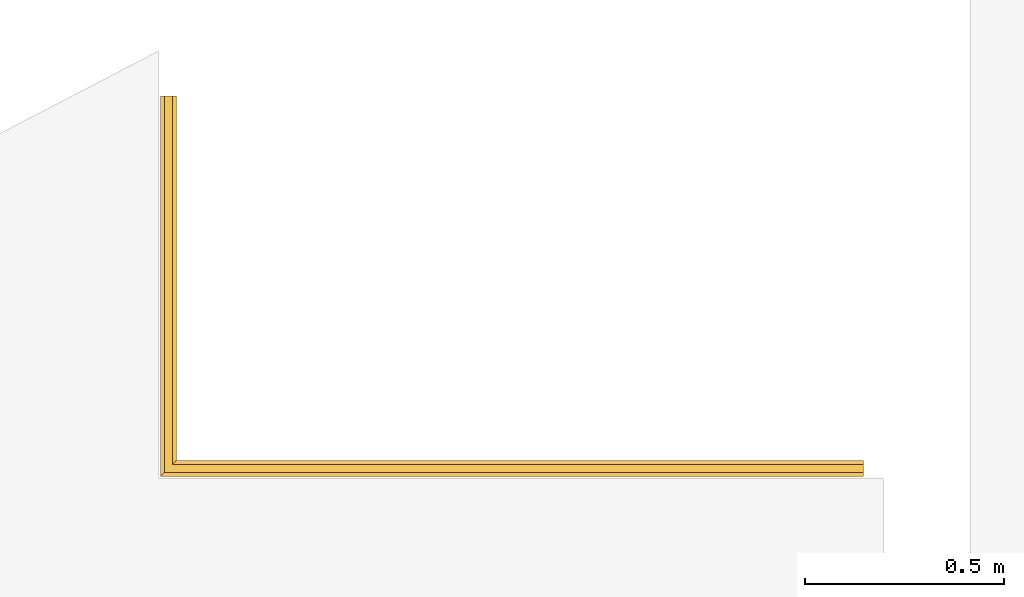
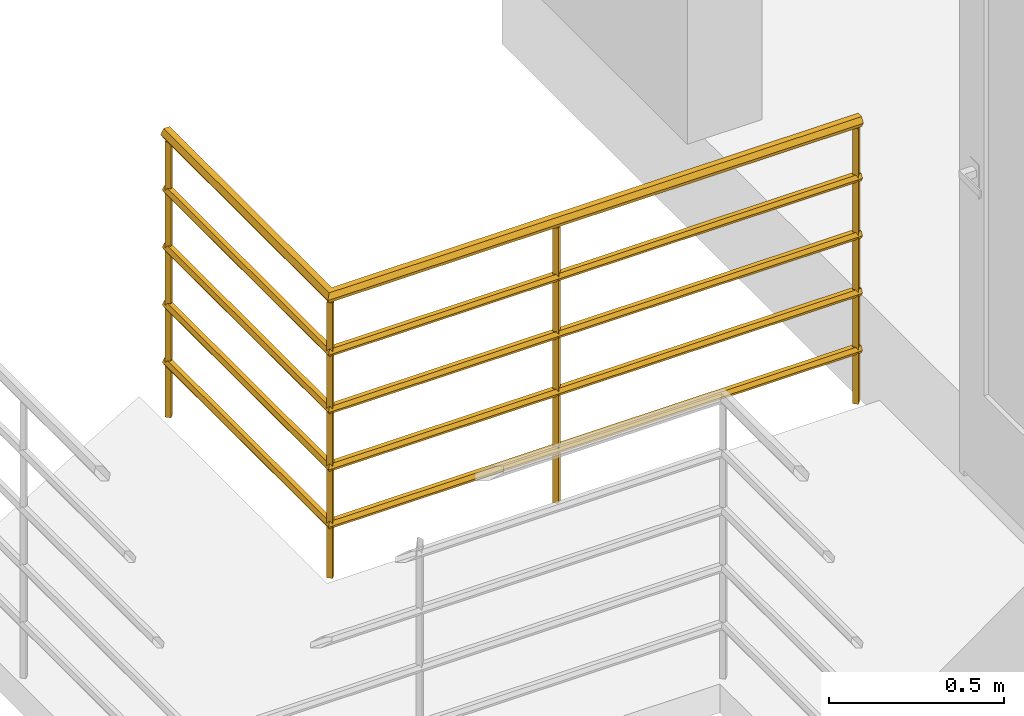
# One storey, part 9 of 15: 1 railing.
"""IFC2X3 building model written with IfcOpenShell, lengths in millimetres."""

from ifc_helpers import new_model, entity, si_unit, converted_unit, derived_unit, direction, frame, origin, place, context, subcontext, project, spatial, faceted_brep, element, save


model = new_model("IFC2X3")

# Units and contexts
model_context = context("Model", 3, precision=0.01, world=origin(), true_north=direction((6.12303176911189e-17, 1.0)))
body_context = subcontext(model_context, "Body", "Model", "MODEL_VIEW")
ifc_project = project(units=[si_unit("LENGTHUNIT", "METRE", prefix="MILLI"), si_unit("AREAUNIT", "SQUARE_METRE"), si_unit("VOLUMEUNIT", "CUBIC_METRE"), converted_unit("PLANEANGLEUNIT", "DEGREE", entity("IfcRatioMeasure", 0.0174532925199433), si_unit("PLANEANGLEUNIT", "RADIAN"), dimensions=[0, 0, 0, 0, 0, 0, 0]), si_unit("MASSUNIT", "GRAM", prefix="KILO"), derived_unit("MASSDENSITYUNIT", [(si_unit("MASSUNIT", "GRAM", prefix="KILO"), 1), (si_unit("LENGTHUNIT", "METRE"), -3)]), si_unit("TIMEUNIT", "SECOND"), si_unit("FREQUENCYUNIT", "HERTZ"), si_unit("THERMODYNAMICTEMPERATUREUNIT", "DEGREE_CELSIUS"), derived_unit("THERMALTRANSMITTANCEUNIT", [(si_unit("MASSUNIT", "GRAM", prefix="KILO"), 1), (si_unit("THERMODYNAMICTEMPERATUREUNIT", "KELVIN"), -1), (si_unit("TIMEUNIT", "SECOND"), -3)]), derived_unit("VOLUMETRICFLOWRATEUNIT", [(si_unit("LENGTHUNIT", "METRE"), 3), (si_unit("TIMEUNIT", "SECOND"), -1)]), si_unit("ELECTRICCURRENTUNIT", "AMPERE"), si_unit("ELECTRICVOLTAGEUNIT", "VOLT"), si_unit("POWERUNIT", "WATT"), si_unit("FORCEUNIT", "NEWTON", prefix="KILO"), si_unit("ILLUMINANCEUNIT", "LUX"), si_unit("LUMINOUSFLUXUNIT", "LUMEN"), si_unit("LUMINOUSINTENSITYUNIT", "CANDELA"), derived_unit("USERDEFINED", [(si_unit("MASSUNIT", "GRAM", prefix="KILO"), -1), (si_unit("LENGTHUNIT", "METRE"), -2), (si_unit("TIMEUNIT", "SECOND"), 3), (si_unit("LUMINOUSFLUXUNIT", "LUMEN"), 1)]), derived_unit("LINEARVELOCITYUNIT", [(si_unit("LENGTHUNIT", "METRE"), 1), (si_unit("TIMEUNIT", "SECOND"), -1)]), si_unit("PRESSUREUNIT", "PASCAL"), derived_unit("USERDEFINED", [(si_unit("LENGTHUNIT", "METRE"), -2), (si_unit("MASSUNIT", "GRAM", prefix="KILO"), 1), (si_unit("TIMEUNIT", "SECOND"), -2)])], contexts=[model_context])

# Site, building, storey
site_placement = place(None, frame((-151.875543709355, 2715.0, 0.0)))
site = spatial("IfcSite", under=ifc_project, at=site_placement, Name="Surface", CompositionType="ELEMENT")
building_placement = place(site_placement, origin())
building = spatial("IfcBuilding", under=site, at=building_placement, CompositionType="ELEMENT")
storey_placement = place(building_placement, frame((0.0, 0.0, 7670.0)))
storey = spatial("IfcBuildingStorey", under=building, at=storey_placement, Name="uus 3 korrus", CompositionType="ELEMENT", Elevation=7670.00000000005)

# Railing
railing_placement = place(storey_placement, frame((29776.0209959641, 24035.8416847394, 0.0)))
element("IfcRailing", 1, at=railing_placement, inside=storey, Name="Railing:Piire hor_post - 1000mm", ObjectType="Railing:Piire hor_post - 1000mm", PredefinedType="NOTDEFINED", context=body_context, shape_type="Brep", body=[
    faceted_brep([(766.595272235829, 34.0952722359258, 0.0), (754.095272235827, 21.5952722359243, 0.0), (754.095272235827, 21.5952722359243, 960.0), (766.595272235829, 34.0952722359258, 960.0), (766.595272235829, 9.09527223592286, 0.0), (766.595272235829, 9.09527223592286, 960.0), (779.09527223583, 21.5952722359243, 960.0), (779.09527223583, 21.5952722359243, 0.0)], [[[0, 1, 2, 3]], [[2, 1, 4, 5]], [[6, 5, 4, 7]], [[6, 7, 0, 3]], [[3, 2, 5, 6]], [[0, 7, 4, 1]]]),
    faceted_brep([(21.5952722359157, 34.0952722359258, 0.0), (9.09527223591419, 21.5952722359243, 0.0), (9.09527223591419, 21.5952722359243, 960.0), (21.5952722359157, 34.0952722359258, 960.0), (21.5952722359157, 9.09527223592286, 0.0), (21.5952722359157, 9.09527223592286, 960.0), (34.0952722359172, 21.5952722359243, 960.0), (34.0952722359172, 21.5952722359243, 0.0)], [[[0, 1, 2, 3]], [[2, 1, 4, 5]], [[6, 5, 4, 7]], [[6, 7, 0, 3]], [[3, 2, 5, 6]], [[0, 7, 4, 1]]]),
    faceted_brep([(34.0952722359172, 944.095272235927, 0.0), (21.5952722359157, 956.595272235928, 0.0), (21.5952722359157, 956.595272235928, 960.0), (34.0952722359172, 944.095272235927, 960.0), (9.09527223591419, 944.095272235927, 0.0), (9.09527223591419, 944.095272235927, 960.0), (21.5952722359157, 931.595272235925, 960.0), (21.5952722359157, 931.595272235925, 0.0)], [[[0, 1, 2, 3]], [[2, 1, 4, 5]], [[6, 5, 4, 7]], [[6, 7, 0, 3]], [[3, 2, 5, 6]], [[0, 7, 4, 1]]]),
    faceted_brep([(1754.09527223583, 34.0952722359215, 0.0), (1741.59527223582, 21.59527223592, 0.0), (1741.59527223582, 21.59527223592, 960.0), (1754.09527223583, 34.0952722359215, 960.0), (1754.09527223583, 9.09527223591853, 0.0), (1754.09527223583, 9.09527223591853, 960.0), (1766.59527223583, 21.59527223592, 960.0), (1766.59527223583, 21.59527223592, 0.0)], [[[0, 1, 2, 3]], [[2, 1, 4, 5]], [[6, 5, 4, 7]], [[6, 7, 0, 3]], [[3, 2, 5, 6]], [[0, 7, 4, 1]]]),
    faceted_brep([(1766.59527223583, 1.59527223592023, 980.0), (1766.59527223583, 4.09527223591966, 975.669872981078), (1766.59527223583, 6.59527223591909, 971.339745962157), (1766.59527223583, 9.09527223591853, 967.009618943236), (1766.59527223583, 11.595272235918, 962.679491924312), (1766.59527223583, 16.5952722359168, 962.679491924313), (1766.59527223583, 21.59527223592, 962.679491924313), (1766.59527223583, 26.5952722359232, 962.679491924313), (1766.59527223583, 31.5952722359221, 962.679491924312), (1766.59527223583, 34.0952722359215, 967.009618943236), (1766.59527223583, 36.5952722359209, 971.339745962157), (1766.59527223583, 39.2360084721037, 975.913635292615), (1766.59527223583, 41.5952722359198, 980.0), (1766.59527223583, 39.2360084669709, 984.086364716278), (1766.59527223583, 36.8767446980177, 988.172729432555), (1766.59527223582, 34.2360084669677, 992.746618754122), (1766.59527223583, 31.5952722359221, 997.320508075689), (1766.59527223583, 26.5952722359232, 997.320508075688), (1766.59527223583, 21.59527223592, 997.320508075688), (1766.59527223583, 16.5952722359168, 997.320508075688), (1766.59527223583, 11.595272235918, 997.320508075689), (1766.59527223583, 9.09527223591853, 992.990381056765), (1766.59527223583, 6.59527223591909, 988.660254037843), (1766.59527223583, 4.09527223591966, 984.330127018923), (1.5952722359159, 1.59527223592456, 980.0), (3.77541630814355, 3.77541630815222, 976.223879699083), (3.95453179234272, 3.95453179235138, 975.913642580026), (6.59527223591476, 6.59527223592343, 971.339745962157), (9.09527223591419, 9.09527223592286, 967.009618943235), (11.5952722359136, 11.5952722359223, 962.679491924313), (31.5952722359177, 31.5952722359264, 962.679491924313), (34.0952722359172, 34.0952722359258, 967.009618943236), (36.5952722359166, 36.5952722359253, 971.339745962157), (39.095272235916, 39.0952722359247, 975.669872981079), (41.5952722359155, 41.5952722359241, 980.0), (26.5952722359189, 26.5952722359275, 962.679491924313), (21.5952722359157, 21.5952722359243, 962.679491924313), (16.5952722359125, 16.5952722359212, 962.679491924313), (11.5952722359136, 956.595272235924, 962.679491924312), (16.5952722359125, 956.595272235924, 962.679491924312), (21.5952722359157, 956.595272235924, 962.679491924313), (26.5952722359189, 956.595272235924, 962.679491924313), (31.5952722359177, 956.595272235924, 962.679491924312), (39.095272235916, 39.0952722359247, 984.330127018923), (36.5952722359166, 36.5952722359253, 988.660254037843), (34.0952722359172, 34.0952722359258, 992.990381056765), (31.5952722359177, 31.5952722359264, 997.320508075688), (21.5952722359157, 21.5952722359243, 997.320508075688), (26.5952722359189, 26.5952722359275, 997.320508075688), (26.5952722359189, 956.595272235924, 997.320508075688), (31.5952722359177, 956.595272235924, 997.320508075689), (21.5952722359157, 956.595272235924, 997.320508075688), (16.5952722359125, 956.595272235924, 997.320508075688), (16.5952722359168, 16.5952722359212, 997.320508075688), (11.5952722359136, 956.595272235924, 997.320508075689), (11.5952722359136, 11.5952722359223, 997.320508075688), (3.95453179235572, 3.95453179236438, 984.086357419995), (3.77541630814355, 3.77541630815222, 983.776120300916), (9.09527223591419, 9.09527223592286, 992.990381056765), (8.95453179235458, 8.95453179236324, 992.746611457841), (6.59527223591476, 6.59527223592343, 988.660254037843), (6.31379134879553, 6.31379134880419, 988.172714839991), (1.5952722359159, 956.595272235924, 980.0), (4.09527223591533, 956.595272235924, 984.330127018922), (6.59527223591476, 956.595272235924, 988.660254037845), (9.09527223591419, 956.595272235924, 992.990381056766), (34.4151148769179, 956.595272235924, 992.436397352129), (37.2349575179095, 956.595272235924, 987.55228662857), (39.4151148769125, 956.595272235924, 983.776143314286), (41.5952722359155, 956.595272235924, 980.0), (39.4151148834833, 956.595272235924, 976.223856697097), (36.5952722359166, 956.595272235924, 971.339745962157), (34.0952722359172, 956.595272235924, 967.009618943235), (9.09527223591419, 956.595272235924, 967.009618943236), (6.59527223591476, 956.595272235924, 971.339745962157), (4.09527223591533, 956.595272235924, 975.669872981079)], [[[0, 1, 2, 3, 4, 5, 6, 7, 8, 9, 10, 11, 12, 13, 14, 15, 16, 17, 18, 19, 20, 21, 22, 23]], [[0, 24, 25, 26, 27, 28, 29, 4, 3, 2, 1]], [[10, 9, 8, 30, 31, 32, 33, 34, 12, 11]], [[6, 35, 7]], [[36, 35, 6]], [[6, 5, 36]], [[36, 5, 37]], [[4, 37, 5]], [[4, 29, 37]], [[29, 38, 37]], [[37, 38, 39]], [[40, 36, 39]], [[37, 39, 36]], [[40, 35, 36]], [[35, 40, 41]], [[41, 30, 35]], [[41, 42, 30]], [[30, 8, 7]], [[30, 7, 35]], [[14, 13, 12, 34, 43, 44, 45, 46, 16, 15]], [[18, 47, 19]], [[18, 48, 47]], [[48, 18, 17]], [[17, 46, 48]], [[17, 16, 46]], [[46, 49, 48]], [[50, 49, 46]], [[48, 49, 51]], [[51, 52, 47]], [[51, 47, 48]], [[53, 47, 52]], [[54, 53, 52]], [[53, 54, 55]], [[55, 20, 53]], [[53, 20, 19]], [[47, 53, 19]], [[56, 57, 24, 0, 23, 22, 21, 20, 55, 58, 59, 60, 61]], [[62, 63, 64, 65, 54, 52, 51, 49, 50, 66, 67, 68, 69, 70, 71, 72, 42, 41, 40, 39, 38, 73, 74, 75]], [[74, 73, 38, 29, 28, 27, 26, 25, 24, 62, 75]], [[70, 69, 34, 33, 32, 31, 30, 42, 72, 71]], [[44, 43, 34, 69, 68, 67, 66, 50, 46, 45]], [[65, 64, 63, 62, 24, 57, 56, 61, 60, 59, 58, 55, 54]]]),
    faceted_brep([(1766.59527223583, 29.0952722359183, 797.990381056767), (1766.59527223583, 25.3452722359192, 797.990381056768), (1766.59527223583, 21.59527223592, 797.990381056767), (1766.59527223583, 17.8452722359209, 797.990381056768), (1766.59527223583, 14.0952722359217, 797.990381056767), (1766.59527223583, 12.22027223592, 794.742785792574), (1766.59527223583, 10.3452722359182, 791.495190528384), (1766.59527223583, 8.47027223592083, 788.247595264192), (1766.59527223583, 6.59527223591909, 785.0), (1766.59527223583, 8.47027223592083, 781.75240473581), (1766.59527223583, 10.3452722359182, 778.504809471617), (1766.59527223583, 12.2202722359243, 775.257214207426), (1766.59527223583, 14.0952722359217, 772.009618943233), (1766.59527223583, 17.8452722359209, 772.009618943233), (1766.59527223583, 21.59527223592, 772.009618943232), (1766.59527223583, 25.3452722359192, 772.009618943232), (1766.59527223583, 29.0952722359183, 772.009618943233), (1766.59527223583, 30.97027223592, 775.257214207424), (1766.59527223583, 32.8452722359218, 778.504809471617), (1766.59527223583, 35.0585320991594, 782.338288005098), (1766.59527223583, 36.5952722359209, 785.0), (1766.59527223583, 35.058532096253, 787.661711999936), (1766.59527223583, 33.5217919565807, 790.323423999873), (1766.59527223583, 31.3085320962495, 794.156902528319), (6.59527223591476, 6.59527223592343, 785.0), (8.01877395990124, 8.0187739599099, 782.534422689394), (8.13201082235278, 8.13201082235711, 782.338290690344), (9.44227568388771, 9.44227568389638, 780.068845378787), (10.3452722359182, 10.3452722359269, 778.504809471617), (11.7687739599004, 11.7687739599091, 776.039232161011), (12.2202722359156, 12.2202722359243, 775.257214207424), (14.0952722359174, 14.0952722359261, 772.009618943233), (29.095272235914, 29.0952722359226, 772.009618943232), (30.9702722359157, 30.9702722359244, 775.257214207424), (32.8452722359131, 32.8452722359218, 778.504809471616), (34.7202722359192, 34.7202722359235, 781.752404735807), (36.5952722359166, 36.5952722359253, 785.0), (25.3452722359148, 25.3452722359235, 772.009618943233), (21.5952722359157, 21.5952722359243, 772.009618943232), (17.8452722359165, 17.8452722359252, 772.009618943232), (14.0952722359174, 956.595272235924, 772.009618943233), (17.8452722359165, 956.595272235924, 772.009618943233), (21.5952722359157, 956.595272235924, 772.009618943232), (25.3452722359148, 956.595272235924, 772.009618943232), (29.095272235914, 956.595272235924, 772.009618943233), (34.7202722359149, 34.7202722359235, 788.247595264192), (32.8452722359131, 32.8452722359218, 791.495190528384), (30.9702722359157, 30.9702722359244, 794.742785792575), (29.095272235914, 29.0952722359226, 797.990381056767), (21.5952722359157, 21.5952722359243, 797.990381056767), (25.3452722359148, 25.3452722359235, 797.990381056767), (25.3452722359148, 956.595272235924, 797.990381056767), (29.095272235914, 956.595272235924, 797.990381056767), (21.5952722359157, 956.595272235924, 797.990381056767), (17.8452722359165, 956.595272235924, 797.990381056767), (17.8452722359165, 17.8452722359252, 797.990381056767), (14.0952722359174, 956.595272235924, 797.990381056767), (14.0952722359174, 14.0952722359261, 797.990381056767), (8.13201082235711, 8.13201082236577, 787.661709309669), (8.01877395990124, 8.0187739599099, 787.465577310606), (12.22027223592, 12.2202722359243, 794.742785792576), (11.8820108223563, 11.8820108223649, 794.156899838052), (10.3452722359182, 10.3452722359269, 791.495190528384), (9.66874940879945, 9.66874940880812, 790.323418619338), (31.4217655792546, 956.595272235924, 793.960776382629), (33.7482589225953, 956.595272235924, 789.931171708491), (35.1717655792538, 956.595272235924, 787.465585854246), (36.5952722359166, 956.595272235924, 785.0), (35.1717655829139, 956.595272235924, 782.534414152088), (32.8452722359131, 956.595272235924, 778.504809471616), (30.9702722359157, 956.595272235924, 775.257214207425), (12.2202722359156, 956.595272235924, 775.257214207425), (10.3452722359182, 956.595272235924, 778.504809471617), (8.47027223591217, 956.595272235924, 781.752404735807), (6.59527223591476, 956.595272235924, 785.0), (8.4702722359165, 956.595272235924, 788.247595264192), (10.3452722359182, 956.595272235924, 791.495190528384), (12.22027223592, 956.595272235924, 794.742785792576)], [[[0, 1, 2, 3, 4, 5, 6, 7, 8, 9, 10, 11, 12, 13, 14, 15, 16, 17, 18, 19, 20, 21, 22, 23]], [[8, 24, 25, 26, 27, 28, 29, 30, 31, 12, 11, 10, 9]], [[18, 17, 16, 32, 33, 34, 35, 36, 20, 19]], [[14, 37, 15]], [[38, 37, 14]], [[14, 13, 38]], [[38, 13, 39]], [[12, 39, 13]], [[12, 31, 39]], [[39, 31, 40]], [[39, 40, 41]], [[38, 41, 42]], [[41, 38, 39]], [[38, 42, 37]], [[42, 43, 37]], [[43, 32, 37]], [[44, 32, 43]], [[32, 16, 15]], [[32, 15, 37]], [[0, 23, 22, 21, 20, 36, 45, 46, 47, 48]], [[2, 49, 3]], [[2, 50, 49]], [[50, 2, 1]], [[1, 48, 50]], [[1, 0, 48]], [[48, 51, 50]], [[52, 51, 48]], [[50, 51, 53]], [[53, 54, 49]], [[53, 49, 50]], [[55, 49, 54]], [[56, 55, 54]], [[55, 56, 57]], [[57, 4, 55]], [[55, 4, 3]], [[49, 55, 3]], [[58, 59, 24, 8, 7, 6, 5, 4, 57, 60, 61, 62, 63]], [[56, 54, 53, 51, 52, 64, 65, 66, 67, 68, 69, 70, 44, 43, 42, 41, 40, 71, 72, 73, 74, 75, 76, 77]], [[31, 30, 29, 28, 27, 26, 25, 24, 74, 73, 72, 71, 40]], [[34, 33, 32, 44, 70, 69, 68, 67, 36, 35]], [[52, 48, 47, 46, 45, 36, 67, 66, 65, 64]], [[77, 76, 75, 74, 24, 59, 58, 63, 62, 61, 60, 57, 56]]]),
    faceted_brep([(1766.59527223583, 29.0952722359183, 597.990381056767), (1766.59527223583, 25.3452722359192, 597.990381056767), (1766.59527223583, 21.59527223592, 597.990381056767), (1766.59527223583, 17.8452722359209, 597.990381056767), (1766.59527223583, 14.0952722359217, 597.990381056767), (1766.59527223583, 12.22027223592, 594.742785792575), (1766.59527223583, 10.3452722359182, 591.495190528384), (1766.59527223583, 8.47027223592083, 588.247595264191), (1766.59527223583, 6.59527223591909, 585.0), (1766.59527223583, 8.47027223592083, 581.752404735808), (1766.59527223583, 10.3452722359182, 578.504809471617), (1766.59527223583, 12.2202722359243, 575.257214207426), (1766.59527223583, 14.0952722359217, 572.009618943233), (1766.59527223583, 17.8452722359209, 572.009618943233), (1766.59527223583, 21.59527223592, 572.009618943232), (1766.59527223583, 25.3452722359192, 572.009618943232), (1766.59527223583, 29.0952722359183, 572.009618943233), (1766.59527223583, 30.97027223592, 575.257214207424), (1766.59527223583, 32.8452722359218, 578.504809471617), (1766.59527223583, 35.0585320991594, 582.338288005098), (1766.59527223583, 36.5952722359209, 585.0), (1766.59527223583, 35.058532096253, 587.661711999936), (1766.59527223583, 33.5217919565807, 590.323423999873), (1766.59527223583, 31.3085320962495, 594.156902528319), (6.59527223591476, 6.59527223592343, 585.0), (8.01877395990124, 8.0187739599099, 582.534422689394), (8.13201082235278, 8.13201082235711, 582.338290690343), (9.44227568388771, 9.44227568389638, 580.068845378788), (10.3452722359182, 10.3452722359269, 578.504809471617), (11.7687739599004, 11.7687739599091, 576.03923216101), (12.2202722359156, 12.2202722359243, 575.257214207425), (14.0952722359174, 14.0952722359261, 572.009618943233), (29.095272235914, 29.0952722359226, 572.009618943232), (30.9702722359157, 30.9702722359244, 575.257214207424), (32.8452722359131, 32.8452722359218, 578.504809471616), (34.7202722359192, 34.7202722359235, 581.752404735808), (36.5952722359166, 36.5952722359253, 585.0), (25.3452722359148, 25.3452722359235, 572.009618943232), (21.5952722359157, 21.5952722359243, 572.009618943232), (17.8452722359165, 17.8452722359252, 572.009618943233), (14.0952722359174, 956.595272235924, 572.009618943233), (17.8452722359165, 956.595272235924, 572.009618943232), (21.5952722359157, 956.595272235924, 572.009618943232), (25.3452722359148, 956.595272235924, 572.009618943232), (29.095272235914, 956.595272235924, 572.009618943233), (34.7202722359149, 34.7202722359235, 588.247595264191), (32.8452722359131, 32.8452722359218, 591.495190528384), (30.9702722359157, 30.9702722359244, 594.742785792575), (29.095272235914, 29.0952722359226, 597.990381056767), (21.5952722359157, 21.5952722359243, 597.990381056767), (25.3452722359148, 25.3452722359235, 597.990381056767), (25.3452722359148, 956.595272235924, 597.990381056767), (29.095272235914, 956.595272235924, 597.990381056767), (21.5952722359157, 956.595272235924, 597.990381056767), (17.8452722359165, 956.595272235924, 597.990381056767), (17.8452722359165, 17.8452722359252, 597.990381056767), (14.0952722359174, 956.595272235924, 597.990381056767), (14.0952722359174, 14.0952722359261, 597.990381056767), (8.13201082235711, 8.13201082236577, 587.66170930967), (8.01877395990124, 8.0187739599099, 587.465577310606), (12.22027223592, 12.2202722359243, 594.742785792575), (11.8820108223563, 11.8820108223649, 594.156899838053), (10.3452722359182, 10.3452722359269, 591.495190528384), (9.66874940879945, 9.66874940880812, 590.323418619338), (31.4217655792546, 956.595272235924, 593.960776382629), (33.7482589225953, 956.595272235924, 589.931171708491), (35.1717655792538, 956.595272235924, 587.465585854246), (36.5952722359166, 956.595272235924, 585.0), (35.1717655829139, 956.595272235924, 582.534414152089), (32.8452722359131, 956.595272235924, 578.504809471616), (30.9702722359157, 956.595272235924, 575.257214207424), (12.2202722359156, 956.595272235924, 575.257214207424), (10.3452722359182, 956.595272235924, 578.504809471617), (8.47027223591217, 956.595272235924, 581.752404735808), (6.59527223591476, 956.595272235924, 585.0), (8.4702722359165, 956.595272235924, 588.247595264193), (10.3452722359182, 956.595272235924, 591.495190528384), (12.22027223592, 956.595272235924, 594.742785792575)], [[[0, 1, 2, 3, 4, 5, 6, 7, 8, 9, 10, 11, 12, 13, 14, 15, 16, 17, 18, 19, 20, 21, 22, 23]], [[8, 24, 25, 26, 27, 28, 29, 30, 31, 12, 11, 10, 9]], [[18, 17, 16, 32, 33, 34, 35, 36, 20, 19]], [[14, 37, 15]], [[38, 37, 14]], [[14, 13, 38]], [[38, 13, 39]], [[12, 39, 13]], [[12, 31, 39]], [[39, 31, 40]], [[39, 40, 41]], [[38, 41, 42]], [[41, 38, 39]], [[38, 42, 37]], [[42, 43, 37]], [[43, 32, 37]], [[44, 32, 43]], [[32, 16, 15]], [[32, 15, 37]], [[0, 23, 22, 21, 20, 36, 45, 46, 47, 48]], [[2, 49, 3]], [[2, 50, 49]], [[50, 2, 1]], [[1, 48, 50]], [[1, 0, 48]], [[48, 51, 50]], [[52, 51, 48]], [[50, 51, 53]], [[53, 54, 49]], [[53, 49, 50]], [[55, 49, 54]], [[56, 55, 54]], [[55, 56, 57]], [[57, 4, 55]], [[55, 4, 3]], [[49, 55, 3]], [[58, 59, 24, 8, 7, 6, 5, 4, 57, 60, 61, 62, 63]], [[56, 54, 53, 51, 52, 64, 65, 66, 67, 68, 69, 70, 44, 43, 42, 41, 40, 71, 72, 73, 74, 75, 76, 77]], [[31, 30, 29, 28, 27, 26, 25, 24, 74, 73, 72, 71, 40]], [[34, 33, 32, 44, 70, 69, 68, 67, 36, 35]], [[52, 48, 47, 46, 45, 36, 67, 66, 65, 64]], [[77, 76, 75, 74, 24, 59, 58, 63, 62, 61, 60, 57, 56]]]),
    faceted_brep([(1766.59527223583, 29.0952722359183, 397.990381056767), (1766.59527223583, 25.3452722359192, 397.990381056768), (1766.59527223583, 21.59527223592, 397.990381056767), (1766.59527223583, 17.8452722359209, 397.990381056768), (1766.59527223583, 14.0952722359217, 397.990381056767), (1766.59527223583, 12.22027223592, 394.742785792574), (1766.59527223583, 10.3452722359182, 391.495190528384), (1766.59527223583, 8.47027223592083, 388.247595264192), (1766.59527223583, 6.59527223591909, 385.0), (1766.59527223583, 8.47027223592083, 381.75240473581), (1766.59527223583, 10.3452722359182, 378.504809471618), (1766.59527223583, 12.2202722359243, 375.257214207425), (1766.59527223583, 14.0952722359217, 372.009618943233), (1766.59527223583, 17.8452722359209, 372.009618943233), (1766.59527223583, 21.59527223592, 372.009618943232), (1766.59527223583, 25.3452722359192, 372.009618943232), (1766.59527223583, 29.0952722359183, 372.009618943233), (1766.59527223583, 30.97027223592, 375.257214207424), (1766.59527223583, 32.8452722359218, 378.504809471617), (1766.59527223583, 35.0585320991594, 382.338288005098), (1766.59527223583, 36.5952722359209, 385.0), (1766.59527223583, 35.058532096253, 387.661711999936), (1766.59527223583, 33.5217919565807, 390.323423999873), (1766.59527223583, 31.3085320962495, 394.156902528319), (6.59527223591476, 6.59527223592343, 385.0), (8.01877395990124, 8.0187739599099, 382.534422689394), (8.13201082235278, 8.13201082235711, 382.338290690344), (9.44227568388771, 9.44227568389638, 380.068845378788), (10.3452722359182, 10.3452722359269, 378.504809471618), (11.7687739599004, 11.7687739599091, 376.039232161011), (12.2202722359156, 12.2202722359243, 375.257214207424), (14.0952722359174, 14.0952722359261, 372.009618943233), (29.095272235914, 29.0952722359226, 372.009618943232), (30.9702722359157, 30.9702722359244, 375.257214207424), (32.8452722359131, 32.8452722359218, 378.504809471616), (34.7202722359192, 34.7202722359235, 381.752404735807), (36.5952722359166, 36.5952722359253, 385.0), (25.3452722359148, 25.3452722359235, 372.009618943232), (21.5952722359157, 21.5952722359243, 372.009618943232), (17.8452722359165, 17.8452722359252, 372.009618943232), (14.0952722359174, 956.595272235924, 372.009618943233), (17.8452722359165, 956.595272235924, 372.009618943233), (21.5952722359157, 956.595272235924, 372.009618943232), (25.3452722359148, 956.595272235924, 372.009618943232), (29.095272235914, 956.595272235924, 372.009618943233), (34.7202722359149, 34.7202722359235, 388.247595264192), (32.8452722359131, 32.8452722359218, 391.495190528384), (30.9702722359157, 30.9702722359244, 394.742785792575), (29.095272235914, 29.0952722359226, 397.990381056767), (21.5952722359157, 21.5952722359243, 397.990381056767), (25.3452722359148, 25.3452722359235, 397.990381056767), (25.3452722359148, 956.595272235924, 397.990381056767), (29.095272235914, 956.595272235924, 397.990381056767), (21.5952722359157, 956.595272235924, 397.990381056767), (17.8452722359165, 956.595272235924, 397.990381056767), (17.8452722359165, 17.8452722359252, 397.990381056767), (14.0952722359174, 956.595272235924, 397.990381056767), (14.0952722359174, 14.0952722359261, 397.990381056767), (8.13201082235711, 8.13201082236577, 387.66170930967), (8.01877395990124, 8.0187739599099, 387.465577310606), (12.22027223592, 12.2202722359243, 394.742785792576), (11.8820108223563, 11.8820108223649, 394.156899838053), (10.3452722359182, 10.3452722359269, 391.495190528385), (9.66874940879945, 9.66874940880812, 390.323418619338), (31.4217655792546, 956.595272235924, 393.960776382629), (33.7482589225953, 956.595272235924, 389.931171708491), (35.1717655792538, 956.595272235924, 387.465585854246), (36.5952722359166, 956.595272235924, 385.0), (35.1717655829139, 956.595272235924, 382.534414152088), (32.8452722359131, 956.595272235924, 378.504809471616), (30.9702722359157, 956.595272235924, 375.257214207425), (12.2202722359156, 956.595272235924, 375.257214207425), (10.3452722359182, 956.595272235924, 378.504809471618), (8.47027223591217, 956.595272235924, 381.752404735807), (6.59527223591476, 956.595272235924, 385.0), (8.4702722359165, 956.595272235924, 388.247595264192), (10.3452722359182, 956.595272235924, 391.495190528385), (12.22027223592, 956.595272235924, 394.742785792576)], [[[0, 1, 2, 3, 4, 5, 6, 7, 8, 9, 10, 11, 12, 13, 14, 15, 16, 17, 18, 19, 20, 21, 22, 23]], [[8, 24, 25, 26, 27, 28, 29, 30, 31, 12, 11, 10, 9]], [[18, 17, 16, 32, 33, 34, 35, 36, 20, 19]], [[14, 37, 15]], [[38, 37, 14]], [[14, 13, 38]], [[38, 13, 39]], [[12, 39, 13]], [[12, 31, 39]], [[39, 31, 40]], [[39, 40, 41]], [[38, 41, 42]], [[41, 38, 39]], [[38, 42, 37]], [[42, 43, 37]], [[43, 32, 37]], [[44, 32, 43]], [[32, 16, 15]], [[32, 15, 37]], [[0, 23, 22, 21, 20, 36, 45, 46, 47, 48]], [[2, 49, 3]], [[2, 50, 49]], [[50, 2, 1]], [[1, 48, 50]], [[1, 0, 48]], [[48, 51, 50]], [[52, 51, 48]], [[50, 51, 53]], [[53, 54, 49]], [[53, 49, 50]], [[55, 49, 54]], [[56, 55, 54]], [[55, 56, 57]], [[57, 4, 55]], [[55, 4, 3]], [[49, 55, 3]], [[58, 59, 24, 8, 7, 6, 5, 4, 57, 60, 61, 62, 63]], [[56, 54, 53, 51, 52, 64, 65, 66, 67, 68, 69, 70, 44, 43, 42, 41, 40, 71, 72, 73, 74, 75, 76, 77]], [[31, 30, 29, 28, 27, 26, 25, 24, 74, 73, 72, 71, 40]], [[34, 33, 32, 44, 70, 69, 68, 67, 36, 35]], [[52, 48, 47, 46, 45, 36, 67, 66, 65, 64]], [[77, 76, 75, 74, 24, 59, 58, 63, 62, 61, 60, 57, 56]]]),
    faceted_brep([(1766.59527223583, 29.0952722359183, 197.990381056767), (1766.59527223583, 25.3452722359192, 197.990381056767), (1766.59527223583, 21.59527223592, 197.990381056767), (1766.59527223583, 17.8452722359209, 197.990381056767), (1766.59527223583, 14.0952722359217, 197.990381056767), (1766.59527223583, 12.22027223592, 194.742785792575), (1766.59527223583, 10.3452722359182, 191.495190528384), (1766.59527223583, 8.47027223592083, 188.247595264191), (1766.59527223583, 6.59527223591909, 185.0), (1766.59527223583, 8.47027223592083, 181.752404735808), (1766.59527223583, 10.3452722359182, 178.504809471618), (1766.59527223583, 12.2202722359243, 175.257214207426), (1766.59527223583, 14.0952722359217, 172.009618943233), (1766.59527223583, 17.8452722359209, 172.009618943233), (1766.59527223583, 21.59527223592, 172.009618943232), (1766.59527223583, 25.3452722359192, 172.009618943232), (1766.59527223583, 29.0952722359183, 172.009618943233), (1766.59527223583, 30.97027223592, 175.257214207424), (1766.59527223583, 32.8452722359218, 178.504809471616), (1766.59527223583, 35.0585320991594, 182.338288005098), (1766.59527223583, 36.5952722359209, 185.0), (1766.59527223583, 35.058532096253, 187.661711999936), (1766.59527223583, 33.5217919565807, 190.323423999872), (1766.59527223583, 31.3085320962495, 194.156902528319), (6.59527223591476, 6.59527223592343, 185.0), (8.01877395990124, 8.0187739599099, 182.534422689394), (8.13201082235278, 8.13201082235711, 182.338290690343), (9.44227568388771, 9.44227568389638, 180.068845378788), (10.3452722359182, 10.3452722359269, 178.504809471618), (11.7687739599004, 11.7687739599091, 176.039232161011), (12.2202722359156, 12.2202722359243, 175.257214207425), (14.0952722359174, 14.0952722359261, 172.009618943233), (29.095272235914, 29.0952722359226, 172.009618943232), (30.9702722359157, 30.9702722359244, 175.257214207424), (32.8452722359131, 32.8452722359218, 178.504809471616), (34.7202722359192, 34.7202722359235, 181.752404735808), (36.5952722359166, 36.5952722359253, 185.0), (25.3452722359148, 25.3452722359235, 172.009618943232), (21.5952722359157, 21.5952722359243, 172.009618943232), (17.8452722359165, 17.8452722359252, 172.009618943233), (14.0952722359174, 956.595272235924, 172.009618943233), (17.8452722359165, 956.595272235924, 172.009618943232), (21.5952722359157, 956.595272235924, 172.009618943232), (25.3452722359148, 956.595272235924, 172.009618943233), (29.095272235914, 956.595272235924, 172.009618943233), (34.7202722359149, 34.7202722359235, 188.247595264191), (32.8452722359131, 32.8452722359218, 191.495190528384), (30.9702722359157, 30.9702722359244, 194.742785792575), (29.095272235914, 29.0952722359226, 197.990381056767), (21.5952722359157, 21.5952722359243, 197.990381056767), (25.3452722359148, 25.3452722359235, 197.990381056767), (25.3452722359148, 956.595272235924, 197.990381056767), (29.095272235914, 956.595272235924, 197.990381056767), (21.5952722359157, 956.595272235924, 197.990381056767), (17.8452722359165, 956.595272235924, 197.990381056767), (17.8452722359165, 17.8452722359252, 197.990381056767), (14.0952722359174, 956.595272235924, 197.990381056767), (14.0952722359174, 14.0952722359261, 197.990381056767), (8.13201082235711, 8.13201082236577, 187.66170930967), (8.01877395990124, 8.0187739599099, 187.465577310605), (12.22027223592, 12.2202722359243, 194.742785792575), (11.8820108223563, 11.8820108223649, 194.156899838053), (10.3452722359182, 10.3452722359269, 191.495190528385), (9.66874940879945, 9.66874940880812, 190.323418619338), (31.4217655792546, 956.595272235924, 193.960776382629), (33.7482589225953, 956.595272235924, 189.931171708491), (35.1717655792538, 956.595272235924, 187.465585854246), (36.5952722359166, 956.595272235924, 185.0), (35.1717655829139, 956.595272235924, 182.534414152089), (32.8452722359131, 956.595272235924, 178.504809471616), (30.9702722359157, 956.595272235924, 175.257214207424), (12.2202722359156, 956.595272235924, 175.257214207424), (10.3452722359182, 956.595272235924, 178.504809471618), (8.47027223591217, 956.595272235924, 181.752404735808), (6.59527223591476, 956.595272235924, 185.0), (8.4702722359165, 956.595272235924, 188.247595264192), (10.3452722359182, 956.595272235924, 191.495190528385), (12.22027223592, 956.595272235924, 194.742785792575)], [[[0, 1, 2, 3, 4, 5, 6, 7, 8, 9, 10, 11, 12, 13, 14, 15, 16, 17, 18, 19, 20, 21, 22, 23]], [[8, 24, 25, 26, 27, 28, 29, 30, 31, 12, 11, 10, 9]], [[18, 17, 16, 32, 33, 34, 35, 36, 20, 19]], [[14, 37, 15]], [[38, 37, 14]], [[14, 13, 38]], [[38, 13, 39]], [[12, 39, 13]], [[12, 31, 39]], [[39, 31, 40]], [[39, 40, 41]], [[38, 41, 42]], [[41, 38, 39]], [[38, 42, 37]], [[42, 43, 37]], [[43, 32, 37]], [[44, 32, 43]], [[32, 16, 15]], [[32, 15, 37]], [[0, 23, 22, 21, 20, 36, 45, 46, 47, 48]], [[2, 49, 3]], [[2, 50, 49]], [[50, 2, 1]], [[1, 48, 50]], [[1, 0, 48]], [[48, 51, 50]], [[52, 51, 48]], [[50, 51, 53]], [[53, 54, 49]], [[53, 49, 50]], [[55, 49, 54]], [[56, 55, 54]], [[55, 56, 57]], [[57, 4, 55]], [[55, 4, 3]], [[49, 55, 3]], [[58, 59, 24, 8, 7, 6, 5, 4, 57, 60, 61, 62, 63]], [[56, 54, 53, 51, 52, 64, 65, 66, 67, 68, 69, 70, 44, 43, 42, 41, 40, 71, 72, 73, 74, 75, 76, 77]], [[31, 30, 29, 28, 27, 26, 25, 24, 74, 73, 72, 71, 40]], [[34, 33, 32, 44, 70, 69, 68, 67, 36, 35]], [[52, 48, 47, 46, 45, 36, 67, 66, 65, 64]], [[77, 76, 75, 74, 24, 59, 58, 63, 62, 61, 60, 57, 56]]]),
])

save(model, "model.ifc")
